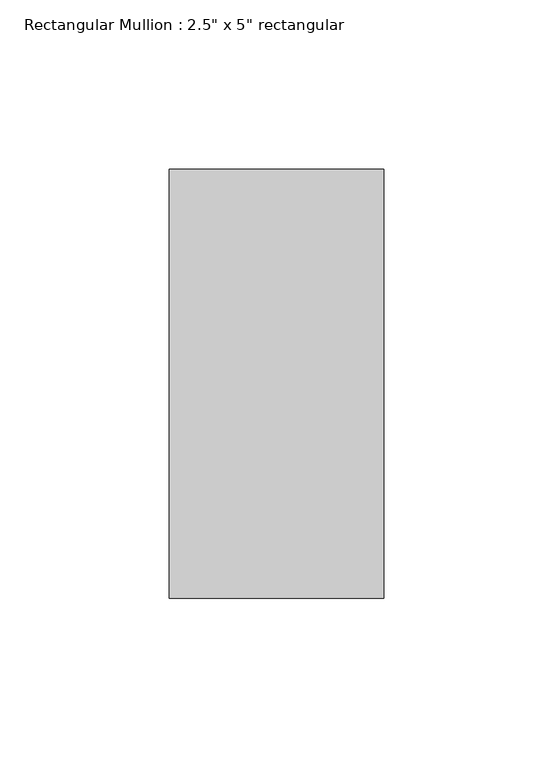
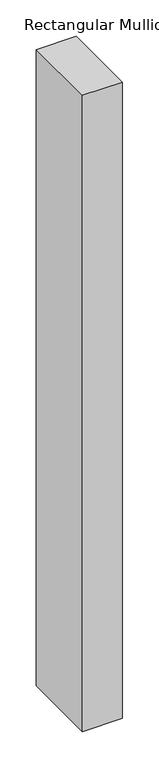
"""IFC4 building model written with IfcOpenShell, lengths in millimetres: member geometry."""

from ifc_helpers import new_model, si_unit, frame, origin, place, context, project, spatial, polyline, outline, extrude, source, transform, mapped, element, save


def member_14f97ceb(model_context):
    return source(origin(), model_context, "Body", "SweptSolid", [
        extrude(outline(polyline([(0.0, 63.5), (0.0, -63.5), (-63.5, -63.5), (-63.5, 63.5), (0.0, 63.5)])), frame((0.0, 0.0, -1068.6142856), z_axis=(0.0, 0.0, 1.0), x_axis=(1.0, 0.0, 0.0)), (0.0, 0.0, 1.0), 1068.6142856),
    ])


if __name__ == "__main__":
    model = new_model("IFC4")
    model_context = context("Model", 3, world=origin())
    ifc_project = project(units=[si_unit("LENGTHUNIT", "METRE", prefix="MILLI")], contexts=[model_context])
    site = spatial("IfcSite", under=ifc_project)
    building = spatial("IfcBuilding", under=site)
    placement = place(None, origin())
    member_shape = member_14f97ceb(model_context)
    element("IfcMember", 1, ObjectType="Rectangular Mullion : 2.5\" x 5\" rectangular", at=placement, inside=building, context=model_context, shape_type="MappedRepresentation", body=[
        mapped(member_shape, transform((0.0, 0.0, 0.0), x_axis=(1.0, 0.0, 0.0), y_axis=(0.0, 1.0, 0.0), z_axis=(0.0, 0.0, 1.0))),
    ])
    save(model, "model.ifc")
